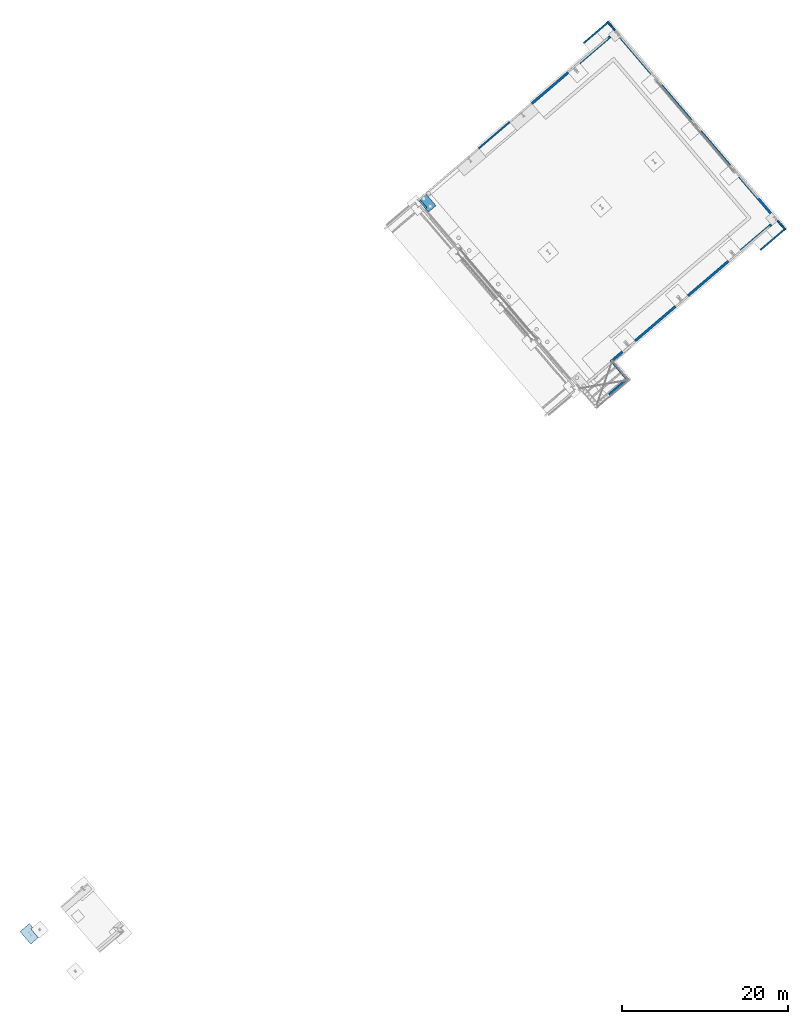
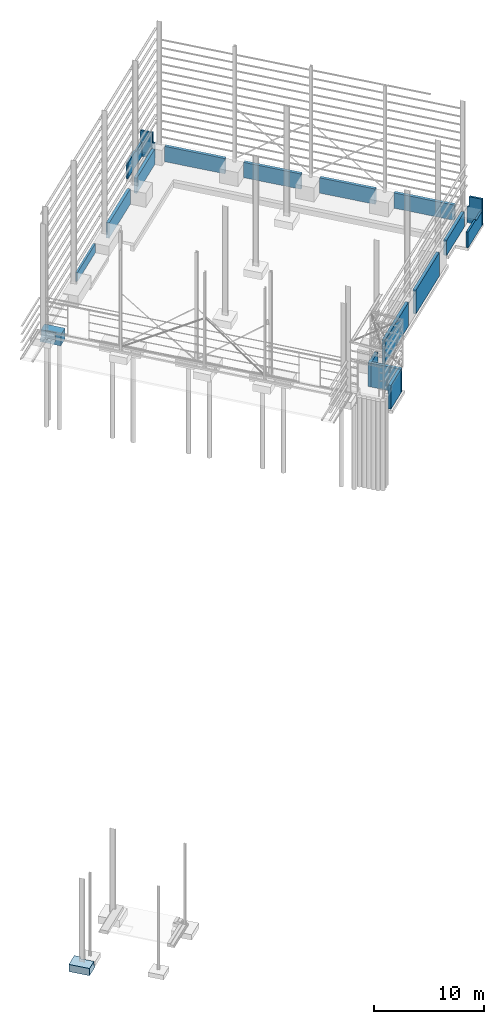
# One storey, part 40 of 41: 17 walls, 2 slabs, 4 openings.
"""IFC2X3 building model written with IfcOpenShell, lengths in millimetres."""

from ifc_helpers import new_model, entity, si_unit, converted_unit, derived_unit, direction, frame, frame_2d, origin, origin_2d_with_axis, place, context, subcontext, project, spatial, rectangle, extrude, faceted_brep, material, layer, layer_set, layer_usage, type_object, element, save


model = new_model("IFC2X3")

# Units and contexts
model_context = context("Model", 3, precision=0.01, world=origin(), true_north=direction((6.123031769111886e-17, 1.0)))
body_context = subcontext(model_context, "Body", "Model", "MODEL_VIEW")
ifc_project = project(units=[si_unit("LENGTHUNIT", "METRE", prefix="MILLI"), si_unit("AREAUNIT", "SQUARE_METRE"), si_unit("VOLUMEUNIT", "CUBIC_METRE"), converted_unit("PLANEANGLEUNIT", "DEGREE", entity("IfcRatioMeasure", 0.017453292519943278), si_unit("PLANEANGLEUNIT", "RADIAN"), dimensions=[0, 0, 0, 0, 0, 0, 0]), si_unit("MASSUNIT", "GRAM", prefix="KILO"), derived_unit("MASSDENSITYUNIT", [(si_unit("MASSUNIT", "GRAM", prefix="KILO"), 1), (si_unit("LENGTHUNIT", "METRE"), -3)]), derived_unit("MOMENTOFINERTIAUNIT", [(si_unit("LENGTHUNIT", "METRE"), 4)]), si_unit("TIMEUNIT", "SECOND"), si_unit("FREQUENCYUNIT", "HERTZ"), si_unit("THERMODYNAMICTEMPERATUREUNIT", "DEGREE_CELSIUS"), derived_unit("THERMALTRANSMITTANCEUNIT", [(si_unit("MASSUNIT", "GRAM", prefix="KILO"), 1), (si_unit("THERMODYNAMICTEMPERATUREUNIT", "KELVIN"), -1), (si_unit("TIMEUNIT", "SECOND"), -3)]), derived_unit("VOLUMETRICFLOWRATEUNIT", [(si_unit("LENGTHUNIT", "METRE"), 3), (si_unit("TIMEUNIT", "SECOND"), -1)]), derived_unit("MASSFLOWRATEUNIT", [(si_unit("MASSUNIT", "GRAM", prefix="KILO"), 1), (si_unit("TIMEUNIT", "SECOND"), -1)]), derived_unit("ROTATIONALFREQUENCYUNIT", [(si_unit("TIMEUNIT", "SECOND"), -1)]), si_unit("ELECTRICCURRENTUNIT", "AMPERE"), si_unit("ELECTRICVOLTAGEUNIT", "VOLT"), si_unit("POWERUNIT", "WATT"), si_unit("FORCEUNIT", "NEWTON", prefix="KILO"), si_unit("ILLUMINANCEUNIT", "LUX"), si_unit("LUMINOUSFLUXUNIT", "LUMEN"), si_unit("LUMINOUSINTENSITYUNIT", "CANDELA"), derived_unit("USERDEFINED", [(si_unit("MASSUNIT", "GRAM", prefix="KILO"), -1), (si_unit("LENGTHUNIT", "METRE"), -2), (si_unit("TIMEUNIT", "SECOND"), 3), (si_unit("LUMINOUSFLUXUNIT", "LUMEN"), 1)]), derived_unit("SOUNDPOWERUNIT", [(si_unit("MASSUNIT", "GRAM", prefix="KILO"), 1), (si_unit("LENGTHUNIT", "METRE"), 2), (si_unit("TIMEUNIT", "SECOND"), -3)]), derived_unit("LINEARVELOCITYUNIT", [(si_unit("LENGTHUNIT", "METRE"), 1), (si_unit("TIMEUNIT", "SECOND"), -1)]), si_unit("PRESSUREUNIT", "PASCAL"), derived_unit("USERDEFINED", [(si_unit("LENGTHUNIT", "METRE"), -2), (si_unit("MASSUNIT", "GRAM", prefix="KILO"), 1), (si_unit("TIMEUNIT", "SECOND"), -2)]), derived_unit("LINEARFORCEUNIT", [(si_unit("MASSUNIT", "GRAM", prefix="KILO"), 1), (si_unit("LENGTHUNIT", "METRE"), 1), (si_unit("TIMEUNIT", "SECOND"), -2), (si_unit("LENGTHUNIT", "METRE"), -1)]), derived_unit("PLANARFORCEUNIT", [(si_unit("MASSUNIT", "GRAM", prefix="KILO"), 1), (si_unit("LENGTHUNIT", "METRE"), 1), (si_unit("TIMEUNIT", "SECOND"), -2), (si_unit("LENGTHUNIT", "METRE"), -2)])], contexts=[model_context])

# Site, building, storey
site_placement = place(None, frame((962.4174930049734, -6014.433753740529, 0.0), z_axis=(0.0, 0.0, 1.0), x_axis=(0.7601792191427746, 0.649713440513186, 0.0)))
site = spatial("IfcSite", under=ifc_project, at=site_placement, Name="Default", CompositionType="ELEMENT")
building_placement = place(site_placement, origin())
building = spatial("IfcBuilding", under=site, at=building_placement, CompositionType="ELEMENT")
storey_placement = place(building_placement, origin())
storey = spatial("IfcBuildingStorey", under=building, at=storey_placement, Name="Datum", CompositionType="ELEMENT", Elevation=0.0)

# Slabs
ifc_material = material(Name="GHD-Concrete-Concrete_InSitu")
slab_type_1 = type_object("IfcSlabType", Name="FT-GHD-Pad:1500x800x950 2", PredefinedType="BASESLAB", material=ifc_material)
slab_1_placement = place(building_placement, frame((154469.96020470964, 1862.071917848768, -1570.0)))
element("IfcSlab", 1, at=slab_1_placement, inside=storey, type_object=slab_type_1, Name="FT-GHD-Pad:1500x800x950 2", ObjectType="FT-GHD-Pad:1500x800x950 2", PredefinedType="BASESLAB", context=body_context, shape_type="Brep", body=[
    faceted_brep([(1200.0, 0.0, 0.0), (1200.0, 2000.0, 0.0), (1200.0, 2000.0, 834.0), (1200.0, 2000.0, 1200.0), (1200.0, 0.0, 1200.0), (0.0, 2000.0, 0.0), (0.0, 0.0, 0.0), (0.0, 0.0, 1200.0), (0.0, 530.5000000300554, 1200.0), (0.0, 530.5000000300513, 400.0), (0.0, 2000.0, 400.0), (219.0, 2000.0, 1200.0), (219.0, 530.5000000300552, 1200.0), (219.0, 2000.0, 400.0), (219.0, 530.5000000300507, 400.0)], [[[0, 1, 2, 3, 4]], [[5, 6, 7, 8, 9, 10]], [[1, 0, 6, 5]], [[4, 3, 11, 12, 8, 7]], [[0, 4, 7, 6]], [[3, 2, 1, 5, 10, 13, 11]], [[14, 12, 11, 13]], [[14, 13, 10, 9]], [[12, 14, 9, 8]]]),
])
slab_type_2 = type_object("IfcSlabType", Name="FT-GHD-Pad:2000x1500x800", PredefinedType="BASESLAB", material=ifc_material)
slab_2_placement = place(storey_placement, frame((60554.46020470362, -34132.42808212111, -1170.0)))
element("IfcSlab", 2, at=slab_2_placement, inside=storey, type_object=slab_type_2, Name="FT-GHD-Pad:2000x1500x800", ObjectType="FT-GHD-Pad:2000x1500x800", PredefinedType="BASESLAB", context=body_context, shape_type="Brep", body=[
    faceted_brep([(1500.0, 0.0, 0.0), (1500.0, 2000.0, 0.0), (1500.0, 2000.0, 800.0), (1500.0, 1383.4999999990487, 800.0), (1500.0, 1383.4999999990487, 300.0), (1500.0, 0.0, 300.0), (0.0, 2000.0, 0.0), (0.0, 0.0, 0.0), (0.0, 0.0, 800.0), (0.0, 2000.0, 800.0), (1215.0, 0.0, 800.0), (1215.0, 1383.4999999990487, 800.0), (1215.0, 0.0, 300.0), (1215.0, 1383.4999999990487, 300.0)], [[[0, 1, 2, 3, 4, 5]], [[6, 7, 8, 9]], [[1, 0, 7, 6]], [[9, 8, 10, 11, 3, 2]], [[8, 7, 0, 5, 12, 10]], [[2, 1, 6, 9]], [[13, 11, 10, 12]], [[13, 12, 5, 4]], [[11, 13, 4, 3]]]),
])

# Walls
ifc_layer_1 = layer(ifc_material, 300.0)
ifc_layer_set_1 = layer_set([ifc_layer_1], Name="Basic Wall:Cast In Situ - Concrete 300")
ifc_layer_usage_1 = layer_usage(ifc_layer_set_1, "AXIS2", "NEGATIVE", 150.0)
wall_type_1 = type_object("IfcWallType", Name="Basic Wall:Cast In Situ - Concrete 300", PredefinedType="STANDARD", material=ifc_layer_set_1)
wall_1_placement = place(building_placement, frame((185799.5602047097, -4761.640582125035, -1900.0), z_axis=(0.0, 0.0, 1.0), x_axis=(0.0, -1.0, 0.0)))
element("IfcWallStandardCase", 3, at=wall_1_placement, inside=storey, type_object=wall_type_1, material=ifc_layer_usage_1, Name="Basic Wall:Cast In Situ - Concrete 300", ObjectType="Basic Wall:Cast In Situ - Concrete 300", context=body_context, shape_type="SweptSolid", body=[
    extrude(rectangle(XDim=5554.3375000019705, YDim=300.0000000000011, at=frame_2d((2777.1687500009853, 0.0), x_axis=(-1.0, 0.0))), origin(), (0.0, 0.0, 1.0), 1700.0),
])
ifc_layer_usage_2 = layer_usage(ifc_layer_set_1, "AXIS2", "NEGATIVE", 150.0)
wall_2_placement = place(building_placement, frame((185799.5602047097, -12115.978082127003, -1900.0), z_axis=(0.0, 0.0, 1.0), x_axis=(0.0, -1.0, 0.0)))
element("IfcWallStandardCase", 4, at=wall_2_placement, inside=storey, type_object=wall_type_1, material=ifc_layer_usage_2, Name="Basic Wall:Cast In Situ - Concrete 300", ObjectType="Basic Wall:Cast In Situ - Concrete 300", context=body_context, shape_type="SweptSolid", body=[
    extrude(rectangle(XDim=5356.1007747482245, YDim=300.0000000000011, at=frame_2d((2678.0503873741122, 0.0), x_axis=(-1.0, 0.0))), origin(), (0.0, 0.0, 1.0), 1700.0),
])
ifc_layer_usage_3 = layer_usage(ifc_layer_set_1, "AXIS2", "NEGATIVE", 150.0)
wall_3_placement = place(building_placement, frame((185799.5602047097, -19272.07885687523, -1900.0), z_axis=(0.0, 0.0, 1.0), x_axis=(0.0, -1.0, 0.0)))
element("IfcWallStandardCase", 5, at=wall_3_placement, inside=storey, type_object=wall_type_1, material=ifc_layer_usage_3, Name="Basic Wall:Cast In Situ - Concrete 300", ObjectType="Basic Wall:Cast In Situ - Concrete 300", context=body_context, shape_type="SweptSolid", body=[
    extrude(rectangle(XDim=5851.3492252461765, YDim=300.0000000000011, at=frame_2d((2925.6746126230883, 0.0), x_axis=(-1.0, 0.0))), origin(), (0.0, 0.0, 1.0), 1700.0),
])
ifc_layer_usage_4 = layer_usage(ifc_layer_set_1, "AXIS2", "NEGATIVE", 150.0)
wall_4_placement = place(building_placement, frame((185799.5602047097, 2858.3594178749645, -1900.0), z_axis=(0.0, 0.0, 1.0), x_axis=(0.0, -1.0, 0.0)))
element("IfcWallStandardCase", 6, at=wall_4_placement, inside=storey, type_object=wall_type_1, material=ifc_layer_usage_4, Name="Basic Wall:Cast In Situ - Concrete 300", ObjectType="Basic Wall:Cast In Situ - Concrete 300", context=body_context, shape_type="SweptSolid", body=[
    extrude(rectangle(XDim=5820.0, YDim=300.0000000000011, at=frame_2d((2910.0, 0.0), x_axis=(-1.0, 0.0))), origin(), (0.0, 0.0, 1.0), 1700.0),
])
ifc_layer_usage_5 = layer_usage(ifc_layer_set_1, "AXIS2", "NEGATIVE", 150.0)
wall_5_placement = place(building_placement, frame((184949.5602047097, -26173.428082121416, -1900.0), z_axis=(0.0, 0.0, 1.0), x_axis=(-1.0, 0.0, 0.0)))
element("IfcWallStandardCase", 7, at=wall_5_placement, inside=storey, type_object=wall_type_1, material=ifc_layer_usage_5, Name="Basic Wall:Cast In Situ - Concrete 300", ObjectType="Basic Wall:Cast In Situ - Concrete 300", context=body_context, shape_type="SweptSolid", body=[
    extrude(rectangle(XDim=4810.599999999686, YDim=300.0000000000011, at=frame_2d((2405.299999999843, 7.531752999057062e-13), x_axis=(-1.0, 0.0))), origin(), (0.0, 0.0, 1.0), 1700.0),
])
ifc_layer_usage_6 = layer_usage(ifc_layer_set_1, "AXIS2", "NEGATIVE", 150.0)
wall_6_placement = place(building_placement, frame((180038.96020471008, 3710.071917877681, -1900.0)))
element("IfcWallStandardCase", 8, at=wall_6_placement, inside=storey, type_object=wall_type_1, material=ifc_layer_usage_6, Name="Basic Wall:Cast In Situ - Concrete 300", ObjectType="Basic Wall:Cast In Situ - Concrete 300", context=body_context, shape_type="SweptSolid", body=[
    extrude(rectangle(XDim=4908.59999999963, YDim=300.0, at=frame_2d((2454.299999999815, 5.684341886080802e-14), x_axis=(-1.0, 0.0))), origin(), (0.0, 0.0, 1.0), 1700.0),
])
ifc_layer_usage_7 = layer_usage(ifc_layer_set_1, "AXIS2", "NEGATIVE", 150.0)
wall_7_placement = place(building_placement, frame((172488.9602047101, 3710.071917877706, -1900.0)))
element("IfcWallStandardCase", 9, at=wall_7_placement, inside=storey, type_object=wall_type_1, material=ifc_layer_usage_7, Name="Basic Wall:Cast In Situ - Concrete 300", ObjectType="Basic Wall:Cast In Situ - Concrete 300", context=body_context, shape_type="SweptSolid", body=[
    extrude(rectangle(XDim=5749.999999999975, YDim=300.0, at=frame_2d((2874.9999999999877, 5.684341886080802e-14), x_axis=(-1.0, 0.0))), origin(), (0.0, 0.0, 1.0), 1700.0),
])
ifc_layer_2 = layer(ifc_material, 200.0)
ifc_layer_set_2 = layer_set([ifc_layer_2], Name="Basic Wall:Cast In Situ - Concrete 200 RW2")
ifc_layer_usage_8 = layer_usage(ifc_layer_set_2, "AXIS2", "NEGATIVE", 100.0)
wall_type_2 = type_object("IfcWallType", Name="Basic Wall:Cast In Situ - Concrete 200 RW2", PredefinedType="STANDARD", material=ifc_layer_set_2)
wall_8_placement = place(building_placement, frame((164088.96020471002, 3760.0719178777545, -1200.0)))
element("IfcWallStandardCase", 10, at=wall_8_placement, inside=storey, type_object=wall_type_2, material=ifc_layer_usage_8, Name="Basic Wall:Cast In Situ - Concrete 200 RW2", ObjectType="Basic Wall:Cast In Situ - Concrete 200 RW2", context=body_context, shape_type="SweptSolid", body=[
    extrude(rectangle(XDim=4900.000000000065, YDim=200.0, at=frame_2d((2450.0000000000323, 3.552713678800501e-14), x_axis=(-1.0, 0.0))), origin(), (0.0, 0.0, 1.0), 1000.0000000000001),
])

# Wall, opening
ifc_layer_usage_9 = layer_usage(ifc_layer_set_2, "AXIS2", "NEGATIVE", 100.0)
wall_9_placement = place(building_placement, frame((185847.5602047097, 3864.0719178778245, -1900.0), z_axis=(0.0, 0.0, 1.0), x_axis=(0.0, 1.0, 0.0)))
wall_9 = element("IfcWallStandardCase", 11, at=wall_9_placement, inside=storey, type_object=wall_type_2, material=ifc_layer_usage_9, Name="Basic Wall:Cast In Situ - Concrete 200 RW2", ObjectType="Basic Wall:Cast In Situ - Concrete 200 RW2", context=body_context, shape_type="SweptSolid", body=[
    extrude(rectangle(XDim=1433.999999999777, YDim=200.00000000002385, at=frame_2d((716.9999999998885, 0.0), x_axis=(-1.0, 0.0))), origin(), (0.0, 0.0, 1.0), 2850.000000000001),
])
opening_1_placement = place(wall_9_placement, origin())
element("IfcOpeningElement", 12, at=opening_1_placement, cuts=wall_9, Name="Basic Wall:Cast In Situ - Concrete 200 RW2", ObjectType="Opening", context=body_context, shape_type="SweptSolid", body=[
    extrude(rectangle(XDim=1100.0, YDim=195.99999997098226, at=frame_2d((0.0, 0.0), x_axis=(0.0, 1.0))), frame((98.0, 100.0, 2300.0), z_axis=(0.0, -1.0, 0.0), x_axis=(-1.0, 0.0, 0.0)), (0.0, 0.0, 1.0), 200.0),
])

ifc_layer_usage_10 = layer_usage(ifc_layer_set_2, "AXIS2", "POSITIVE", -100.0)
wall_10_placement = place(building_placement, frame((181951.56020470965, -27661.428082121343, -1900.0)))
wall_10 = element("IfcWallStandardCase", 13, at=wall_10_placement, inside=storey, type_object=wall_type_2, material=ifc_layer_usage_10, Name="Basic Wall:Cast In Situ - Concrete 200 RW2", ObjectType="Basic Wall:Cast In Situ - Concrete 200 RW2", context=body_context, shape_type="SweptSolid", body=[
    extrude(rectangle(XDim=3798.0000000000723, YDim=199.99999999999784, at=frame_2d((1899.0000000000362, -5.400124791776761e-13), x_axis=(-1.0, 0.0))), origin(), (0.0, 0.0, 1.0), 1750.0000000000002),
])
opening_2_placement = place(wall_10_placement, origin())
element("IfcOpeningElement", 14, at=opening_2_placement, cuts=wall_10, Name="Basic Wall:Cast In Situ - Concrete 200 RW2", ObjectType="Opening", context=body_context, shape_type="SweptSolid", body=[
    extrude(rectangle(XDim=170.00000000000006, YDim=1798.0000000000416, at=origin_2d_with_axis()), frame((2999.0, 100.0, 1665.0), z_axis=(0.0, -1.0, 0.0), x_axis=(0.0, 0.0, 1.0)), (0.0, 0.0, 1.0), 200.0),
])

ifc_layer_usage_11 = layer_usage(ifc_layer_set_2, "AXIS2", "NEGATIVE", 100.0)
wall_11_placement = place(building_placement, frame((185849.5602047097, -26323.428082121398, -1958.4618893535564), z_axis=(0.0, 0.0, 1.0), x_axis=(0.0, -1.0, 0.0)))
wall_11 = element("IfcWallStandardCase", 15, at=wall_11_placement, inside=storey, type_object=wall_type_2, material=ifc_layer_usage_11, Name="Basic Wall:Cast In Situ - Concrete 200 RW2", ObjectType="Basic Wall:Cast In Situ - Concrete 200 RW2", context=body_context, shape_type="SweptSolid", body=[
    extrude(rectangle(XDim=1437.9999999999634, YDim=200.00000000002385, at=frame_2d((718.9999999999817, 0.0), x_axis=(-1.0, 0.0))), origin(), (0.0, 0.0, 1.0), 2958.4618893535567),
])
opening_3_placement = place(wall_11_placement, origin())
element("IfcOpeningElement", 16, at=opening_3_placement, cuts=wall_11, Name="Basic Wall:Cast In Situ - Concrete 200 RW2", ObjectType="Opening", context=body_context, shape_type="SweptSolid", body=[
    extrude(rectangle(XDim=1150.0, YDim=187.9999999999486, at=frame_2d((4.32720526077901e-12, 0.0), x_axis=(0.0, 1.0))), frame((94.0, 100.0, 2383.4618893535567), z_axis=(0.0, -1.0, 0.0), x_axis=(-1.0, 0.0, 0.0)), (0.0, 0.0, 1.0), 200.0),
])

ifc_layer_usage_12 = layer_usage(ifc_layer_set_2, "AXIS2", "NEGATIVE", 100.0)
wall_12_placement = place(storey_placement, frame((181951.56020470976, 5198.071917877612, -1900.0)))
wall_12 = element("IfcWallStandardCase", 17, at=wall_12_placement, inside=storey, type_object=wall_type_2, material=ifc_layer_usage_12, Name="Basic Wall:Cast In Situ - Concrete 200 RW2", ObjectType="Basic Wall:Cast In Situ - Concrete 200 RW2", context=body_context, shape_type="SweptSolid", body=[
    extrude(rectangle(XDim=3795.9999999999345, YDim=200.0, at=frame_2d((1897.9999999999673, -2.0605739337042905e-13), x_axis=(-1.0, 0.0))), origin(), (0.0, 0.0, 1.0), 1750.0000000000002),
])
opening_4_placement = place(wall_12_placement, origin())
element("IfcOpeningElement", 18, at=opening_4_placement, cuts=wall_12, Name="Basic Wall:Cast In Situ - Concrete 200 RW2", ObjectType="Opening", context=body_context, shape_type="SweptSolid", body=[
    extrude(rectangle(XDim=170.00000000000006, YDim=1795.9999999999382, at=origin_2d_with_axis()), frame((2998.0, 100.0, 1665.0), z_axis=(0.0, -1.0, 0.0), x_axis=(0.0, 0.0, 1.0)), (0.0, 0.0, 1.0), 200.0),
])

# Walls
ifc_layer_3 = layer(ifc_material, 300.0)
ifc_layer_set_3 = layer_set([ifc_layer_3], Name="Basic Wall:Cast In Situ - Concrete 300 RW3")
ifc_layer_usage_13 = layer_usage(ifc_layer_set_3, "AXIS2", "NEGATIVE", 150.0)
wall_type_3 = type_object("IfcWallType", Name="Basic Wall:Cast In Situ - Concrete 300 RW3", PredefinedType="STANDARD", material=ifc_layer_set_3)
wall_13_placement = place(building_placement, frame((178138.96020471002, -26173.428082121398, -2850.0), z_axis=(0.0, 0.0, 1.0), x_axis=(-1.0, 0.0, 0.0)))
element("IfcWallStandardCase", 19, at=wall_13_placement, inside=storey, type_object=wall_type_3, material=ifc_layer_usage_13, Name="Basic Wall:Cast In Situ - Concrete 300 RW3", ObjectType="Basic Wall:Cast In Situ - Concrete 300 RW3", context=body_context, shape_type="SweptSolid", body=[
    extrude(rectangle(XDim=6400.0, YDim=300.0000000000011, at=frame_2d((3200.0, 9.805489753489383e-13), x_axis=(-1.0, 0.0))), origin(), (0.0, 0.0, 1.0), 2650.000000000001),
])
ifc_layer_usage_14 = layer_usage(ifc_layer_set_3, "AXIS2", "NEGATIVE", 150.0)
wall_14_placement = place(building_placement, frame((169738.96020471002, -26173.428082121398, -2850.0), z_axis=(0.0, 0.0, 1.0), x_axis=(-1.0, 0.0, 0.0)))
element("IfcWallStandardCase", 20, at=wall_14_placement, inside=storey, type_object=wall_type_3, material=ifc_layer_usage_14, Name="Basic Wall:Cast In Situ - Concrete 300 RW3", ObjectType="Basic Wall:Cast In Situ - Concrete 300 RW3", context=body_context, shape_type="SweptSolid", body=[
    extrude(rectangle(XDim=6400.00000000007, YDim=300.0000000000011, at=frame_2d((3200.000000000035, 9.805489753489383e-13), x_axis=(-1.0, 0.0))), origin(), (0.0, 0.0, 1.0), 2650.000000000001),
])
ifc_layer_usage_15 = layer_usage(ifc_layer_set_3, "AXIS2", "NEGATIVE", 150.0)
wall_15_placement = place(building_placement, frame((161338.96020470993, -26173.428082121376, -2850.0), z_axis=(0.0, 0.0, 1.0), x_axis=(-1.0, 0.0, 0.0)))
element("IfcWallStandardCase", 21, at=wall_15_placement, inside=storey, type_object=wall_type_3, material=ifc_layer_usage_15, Name="Basic Wall:Cast In Situ - Concrete 300 RW3", ObjectType="Basic Wall:Cast In Situ - Concrete 300 RW3", context=body_context, shape_type="SweptSolid", body=[
    extrude(rectangle(XDim=1874.7880209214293, YDim=300.0000000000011, at=frame_2d((937.3940104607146, 0.0), x_axis=(-1.0, 0.0))), origin(), (0.0, 0.0, 1.0), 2650.000000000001),
])
ifc_layer_usage_16 = layer_usage(ifc_layer_set_3, "AXIS2", "NEGATIVE", 150.0)
wall_16_placement = place(building_placement, frame((159614.1721837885, -26323.428082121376, -2850.0), z_axis=(0.0, 0.0, 1.0), x_axis=(0.0, -1.0, 0.0)))
element("IfcWallStandardCase", 22, at=wall_16_placement, inside=storey, type_object=wall_type_3, material=ifc_layer_usage_16, Name="Basic Wall:Cast In Situ - Concrete 300 RW3", ObjectType="Basic Wall:Cast In Situ - Concrete 300 RW3", context=body_context, shape_type="SweptSolid", body=[
    extrude(rectangle(XDim=2894.928251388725, YDim=300.0000000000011, at=frame_2d((1447.4641256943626, 0.0), x_axis=(-1.0, 0.0))), origin(), (0.0, 0.0, 1.0), 2650.000000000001),
])
ifc_layer_usage_17 = layer_usage(ifc_layer_set_3, "AXIS2", "NEGATIVE", 150.0)
wall_17_placement = place(building_placement, frame((159464.1721837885, -29068.356333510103, -2850.0), z_axis=(0.0, 0.0, 1.0), x_axis=(-1.0, 0.0, 0.0)))
element("IfcWallStandardCase", 23, at=wall_17_placement, inside=storey, type_object=wall_type_3, material=ifc_layer_usage_17, Name="Basic Wall:Cast In Situ - Concrete 300 RW3", ObjectType="Basic Wall:Cast In Situ - Concrete 300 RW3", context=body_context, shape_type="SweptSolid", body=[
    extrude(rectangle(XDim=2724.9999999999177, YDim=300.0000000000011, at=frame_2d((1362.4999999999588, 0.0), x_axis=(-1.0, 0.0))), origin(), (0.0, 0.0, 1.0), 2650.000000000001),
])

save(model, "model.ifc")
